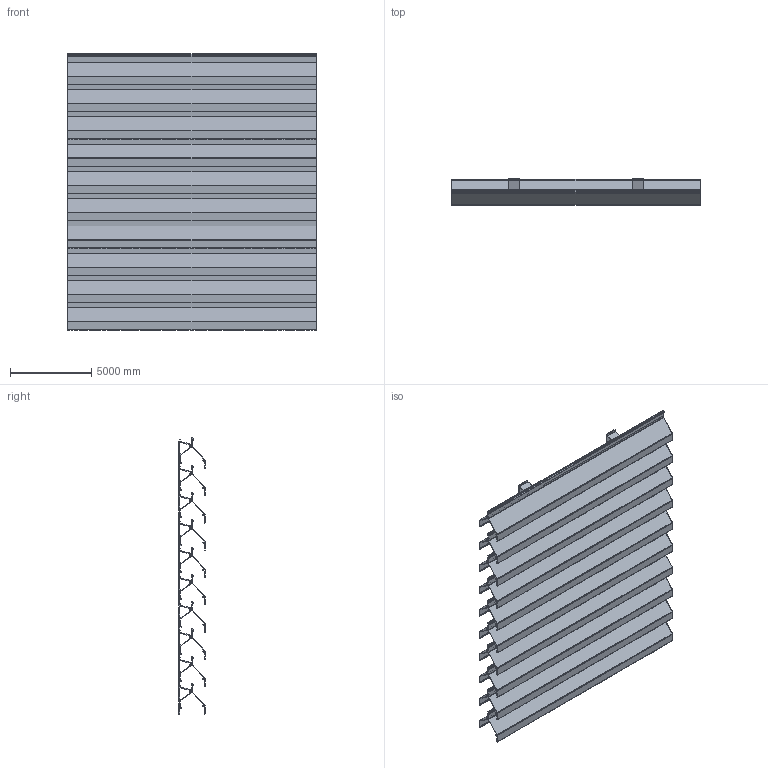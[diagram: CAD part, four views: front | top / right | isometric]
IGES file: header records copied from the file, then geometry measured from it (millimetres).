
Global section: file name: 3D_L_066V; native system: AutoCAD 2023 - English; preprocessor: Autodesk Translation Framework DWG producer (atf_dwg_producer); organization: unknown; date: 20260202.111923; units: inch
Bounding box: 15240 x 1612.9 x 16972.08 mm (x, y, z)
Volume: 23956177097.4 mm3; surface area: 1277594615.6 mm2
Topology: 30 solids, 30 shells, 1240 faces, 3540 edges, 2360 vertices
Faces by surface type: bspline 1240
